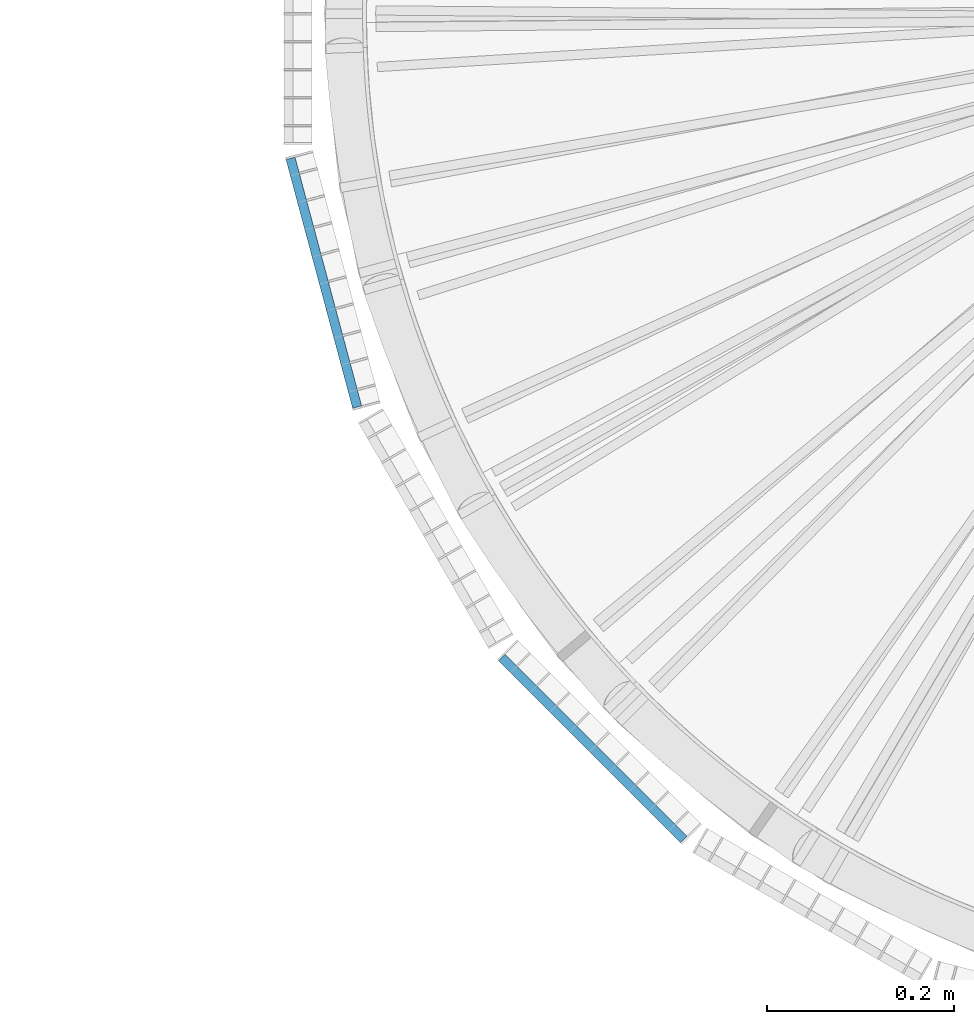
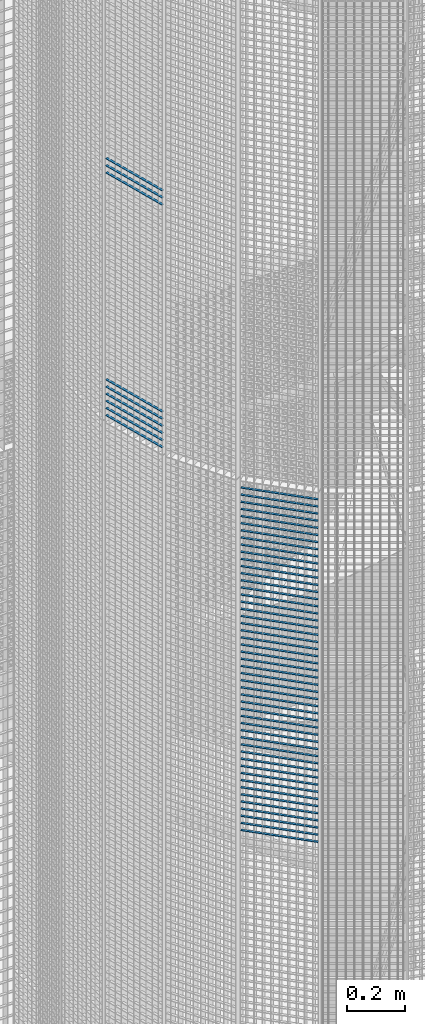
# One storey, part 114 of 1183: 58 beams, 2 elements without a shape of their own.
"""IFC2X3 building model written with IfcOpenShell, lengths in millimetres."""

from ifc_helpers import new_model, si_unit, frame, origin_with_axes, origin_2d_with_axis, place, context, subcontext, project, spatial, rectangle, extrude, material, type_object, element, aggregate, save


model = new_model("IFC2X3")

# Units and contexts
model_context = context("Model", 3, precision=1e-05, world=origin_with_axes())
body_context = subcontext(model_context, "Body", "Model", "MODEL_VIEW")
ifc_project = project(units=[si_unit("LENGTHUNIT", "METRE", prefix="MILLI"), si_unit("AREAUNIT", "SQUARE_METRE"), si_unit("VOLUMEUNIT", "CUBIC_METRE"), si_unit("MASSUNIT", "GRAM", prefix="KILO"), si_unit("TIMEUNIT", "SECOND"), si_unit("PLANEANGLEUNIT", "RADIAN"), si_unit("SOLIDANGLEUNIT", "STERADIAN"), si_unit("THERMODYNAMICTEMPERATUREUNIT", "DEGREE_CELSIUS"), si_unit("LUMINOUSINTENSITYUNIT", "LUMEN")], contexts=[model_context])

# Site, building, storey
site_placement = place(None, origin_with_axes())
site = spatial("IfcSite", under=ifc_project, at=site_placement, Name="Undefined", CompositionType="ELEMENT")
building_placement = place(site_placement, origin_with_axes())
building = spatial("IfcBuilding", under=site, at=building_placement, Name="Undefined", CompositionType="ELEMENT")
storey_placement = place(building_placement, origin_with_axes())
storey = spatial("IfcBuildingStorey", under=building, at=storey_placement, Name="Undefined", CompositionType="ELEMENT", Elevation=0.0)

# Assembly, beams
assembly_1_placement = place(storey_placement, origin_with_axes())
assembly_1 = element("IfcElementAssembly", 1, at=assembly_1_placement, inside=storey, Name="BORDURE", AssemblyPlace="NOTDEFINED", PredefinedType="NOTDEFINED")
ifc_material = material(Name="STEEL/S235JR")
beam_type = type_object("IfcBeamType", Name="PL2*10", PredefinedType="NOTDEFINED")
beam_1_placement = place(assembly_1_placement, frame((-1111.25508286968, -154.895926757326, 12180.0), z_axis=(-0.965925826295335, -0.258819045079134, 0.0), x_axis=(0.258819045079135, -0.965925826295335, 0.0)))
beam_1 = element("IfcBeam", 2, at=beam_1_placement, type_object=beam_type, material=ifc_material, Name="ENTRETOISE", context=body_context, shape_type="SweptSolid", body=[
    extrude(rectangle(XDim=2.0, YDim=10.0, at=origin_2d_with_axis()), frame((275.999999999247, 9.09494701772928e-13, 1.53210777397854e-14), z_axis=(-1.0, 0.0, 0.0), x_axis=(0.0, -1.0, 0.0)), (0.0, 0.0, 1.0), 276.0),
])
beam_2_placement = place(assembly_1_placement, frame((-1111.25508286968, -154.895926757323, 13050.0), z_axis=(-0.965925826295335, -0.258819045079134, 0.0), x_axis=(0.258819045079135, -0.965925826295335, 0.0)))
beam_2 = element("IfcBeam", 3, at=beam_2_placement, type_object=beam_type, material=ifc_material, Name="ENTRETOISE", context=body_context, shape_type="SweptSolid", body=[
    extrude(rectangle(XDim=2.0, YDim=10.0, at=origin_2d_with_axis()), frame((275.999999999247, 9.09494701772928e-13, 1.53210777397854e-14), z_axis=(-1.0, 0.0, 0.0), x_axis=(0.0, -1.0, 0.0)), (0.0, 0.0, 1.0), 276.0),
])
beam_3_placement = place(assembly_1_placement, frame((-1111.25508286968, -154.895926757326, 12150.0), z_axis=(-0.965925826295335, -0.258819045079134, 0.0), x_axis=(0.258819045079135, -0.965925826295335, 0.0)))
beam_3 = element("IfcBeam", 4, at=beam_3_placement, type_object=beam_type, material=ifc_material, Name="ENTRETOISE", context=body_context, shape_type="SweptSolid", body=[
    extrude(rectangle(XDim=2.0, YDim=10.0, at=origin_2d_with_axis()), frame((275.999999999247, 9.09494701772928e-13, 1.53210777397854e-14), z_axis=(-1.0, 0.0, 0.0), x_axis=(0.0, -1.0, 0.0)), (0.0, 0.0, 1.0), 276.0),
])
beam_4_placement = place(assembly_1_placement, frame((-1111.25508286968, -154.895926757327, 12120.0), z_axis=(-0.965925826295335, -0.258819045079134, 0.0), x_axis=(0.258819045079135, -0.965925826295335, 0.0)))
beam_4 = element("IfcBeam", 5, at=beam_4_placement, type_object=beam_type, material=ifc_material, Name="ENTRETOISE", context=body_context, shape_type="SweptSolid", body=[
    extrude(rectangle(XDim=2.0, YDim=10.0, at=origin_2d_with_axis()), frame((275.999999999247, 9.09494701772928e-13, 1.53210777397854e-14), z_axis=(-1.0, 0.0, 0.0), x_axis=(0.0, -1.0, 0.0)), (0.0, 0.0, 1.0), 276.0),
])
beam_5_placement = place(assembly_1_placement, frame((-1111.25508286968, -154.895926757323, 13080.0), z_axis=(-0.965925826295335, -0.258819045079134, 0.0), x_axis=(0.258819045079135, -0.965925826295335, 0.0)))
beam_5 = element("IfcBeam", 6, at=beam_5_placement, type_object=beam_type, material=ifc_material, Name="ENTRETOISE", context=body_context, shape_type="SweptSolid", body=[
    extrude(rectangle(XDim=2.0, YDim=10.0, at=origin_2d_with_axis()), frame((275.999999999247, 9.09494701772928e-13, 1.53210777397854e-14), z_axis=(-1.0, 0.0, 0.0), x_axis=(0.0, -1.0, 0.0)), (0.0, 0.0, 1.0), 276.0),
])
beam_6_placement = place(assembly_1_placement, frame((-1111.25508286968, -154.895926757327, 12090.0), z_axis=(-0.965925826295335, -0.258819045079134, 0.0), x_axis=(0.258819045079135, -0.965925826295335, 0.0)))
beam_6 = element("IfcBeam", 7, at=beam_6_placement, type_object=beam_type, material=ifc_material, Name="ENTRETOISE", context=body_context, shape_type="SweptSolid", body=[
    extrude(rectangle(XDim=2.0, YDim=10.0, at=origin_2d_with_axis()), frame((275.999999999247, 9.09494701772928e-13, 1.53210777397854e-14), z_axis=(-1.0, 0.0, 0.0), x_axis=(0.0, -1.0, 0.0)), (0.0, 0.0, 1.0), 276.0),
])
beam_7_placement = place(assembly_1_placement, frame((-1111.25508286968, -154.895926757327, 12060.0), z_axis=(-0.965925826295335, -0.258819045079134, 0.0), x_axis=(0.258819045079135, -0.965925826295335, 0.0)))
beam_7 = element("IfcBeam", 8, at=beam_7_placement, type_object=beam_type, material=ifc_material, Name="ENTRETOISE", context=body_context, shape_type="SweptSolid", body=[
    extrude(rectangle(XDim=2.0, YDim=10.0, at=origin_2d_with_axis()), frame((275.999999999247, 9.09494701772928e-13, 1.53210777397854e-14), z_axis=(-1.0, 0.0, 0.0), x_axis=(0.0, -1.0, 0.0)), (0.0, 0.0, 1.0), 276.0),
])
beam_8_placement = place(assembly_1_placement, frame((-1111.25508286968, -154.895926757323, 13110.0), z_axis=(-0.965925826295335, -0.258819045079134, 0.0), x_axis=(0.258819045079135, -0.965925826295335, 0.0)))
beam_8 = element("IfcBeam", 9, at=beam_8_placement, type_object=beam_type, material=ifc_material, Name="ENTRETOISE", context=body_context, shape_type="SweptSolid", body=[
    extrude(rectangle(XDim=2.0, YDim=10.0, at=origin_2d_with_axis()), frame((275.999999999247, 9.09494701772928e-13, 1.53210777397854e-14), z_axis=(-1.0, 0.0, 0.0), x_axis=(0.0, -1.0, 0.0)), (0.0, 0.0, 1.0), 276.0),
])
beam_9_placement = place(assembly_1_placement, frame((-1111.25508286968, -154.895926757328, 12030.0), z_axis=(-0.965925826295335, -0.258819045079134, 0.0), x_axis=(0.258819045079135, -0.965925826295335, 0.0)))
beam_9 = element("IfcBeam", 10, at=beam_9_placement, type_object=beam_type, material=ifc_material, Name="ENTRETOISE", context=body_context, shape_type="SweptSolid", body=[
    extrude(rectangle(XDim=2.0, YDim=10.0, at=origin_2d_with_axis()), frame((275.999999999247, 9.09494701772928e-13, 1.53210777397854e-14), z_axis=(-1.0, 0.0, 0.0), x_axis=(0.0, -1.0, 0.0)), (0.0, 0.0, 1.0), 276.0),
])
aggregate(assembly_1, [beam_1, beam_2, beam_3, beam_4, beam_5, beam_6, beam_7, beam_8, beam_9])

assembly_2_placement = place(storey_placement, origin_with_axes())
assembly_2 = element("IfcElementAssembly", 11, at=assembly_2_placement, inside=storey, Name="BORDURE", AssemblyPlace="NOTDEFINED", PredefinedType="NOTDEFINED")
beam_10_placement = place(assembly_2_placement, frame((-884.927168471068, -689.771348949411, 11970.0), z_axis=(-0.70710678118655, -0.707106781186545, 0.0), x_axis=(0.707106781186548, -0.707106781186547, 0.0)))
beam_10 = element("IfcBeam", 12, at=beam_10_placement, type_object=beam_type, material=ifc_material, Name="ENTRETOISE", context=body_context, shape_type="SweptSolid", body=[
    extrude(rectangle(XDim=2.0, YDim=10.0, at=origin_2d_with_axis()), frame((275.999999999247, 9.09494701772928e-13, 1.53210777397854e-14), z_axis=(-1.0, 0.0, 0.0), x_axis=(0.0, -1.0, 0.0)), (0.0, 0.0, 1.0), 276.0),
])
beam_11_placement = place(assembly_2_placement, frame((-884.927168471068, -689.771348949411, 11940.0), z_axis=(-0.70710678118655, -0.707106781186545, 0.0), x_axis=(0.707106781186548, -0.707106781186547, 0.0)))
beam_11 = element("IfcBeam", 13, at=beam_11_placement, type_object=beam_type, material=ifc_material, Name="ENTRETOISE", context=body_context, shape_type="SweptSolid", body=[
    extrude(rectangle(XDim=2.0, YDim=10.0, at=origin_2d_with_axis()), frame((275.999999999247, 9.09494701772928e-13, 1.53210777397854e-14), z_axis=(-1.0, 0.0, 0.0), x_axis=(0.0, -1.0, 0.0)), (0.0, 0.0, 1.0), 276.0),
])
beam_12_placement = place(assembly_2_placement, frame((-884.927168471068, -689.771348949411, 11910.0), z_axis=(-0.70710678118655, -0.707106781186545, 0.0), x_axis=(0.707106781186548, -0.707106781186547, 0.0)))
beam_12 = element("IfcBeam", 14, at=beam_12_placement, type_object=beam_type, material=ifc_material, Name="ENTRETOISE", context=body_context, shape_type="SweptSolid", body=[
    extrude(rectangle(XDim=2.0, YDim=10.0, at=origin_2d_with_axis()), frame((275.999999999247, 9.09494701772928e-13, 1.53210777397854e-14), z_axis=(-1.0, 0.0, 0.0), x_axis=(0.0, -1.0, 0.0)), (0.0, 0.0, 1.0), 276.0),
])
beam_13_placement = place(assembly_2_placement, frame((-884.927168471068, -689.771348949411, 11880.0), z_axis=(-0.70710678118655, -0.707106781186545, 0.0), x_axis=(0.707106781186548, -0.707106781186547, 0.0)))
beam_13 = element("IfcBeam", 15, at=beam_13_placement, type_object=beam_type, material=ifc_material, Name="ENTRETOISE", context=body_context, shape_type="SweptSolid", body=[
    extrude(rectangle(XDim=2.0, YDim=10.0, at=origin_2d_with_axis()), frame((275.999999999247, 9.09494701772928e-13, 1.53210777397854e-14), z_axis=(-1.0, 0.0, 0.0), x_axis=(0.0, -1.0, 0.0)), (0.0, 0.0, 1.0), 276.0),
])
beam_14_placement = place(assembly_2_placement, frame((-884.927168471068, -689.771348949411, 11850.0), z_axis=(-0.70710678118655, -0.707106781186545, 0.0), x_axis=(0.707106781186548, -0.707106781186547, 0.0)))
beam_14 = element("IfcBeam", 16, at=beam_14_placement, type_object=beam_type, material=ifc_material, Name="ENTRETOISE", context=body_context, shape_type="SweptSolid", body=[
    extrude(rectangle(XDim=2.0, YDim=10.0, at=origin_2d_with_axis()), frame((275.999999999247, 9.09494701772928e-13, 1.53210777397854e-14), z_axis=(-1.0, 0.0, 0.0), x_axis=(0.0, -1.0, 0.0)), (0.0, 0.0, 1.0), 276.0),
])
beam_15_placement = place(assembly_2_placement, frame((-884.927168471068, -689.771348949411, 11820.0), z_axis=(-0.70710678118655, -0.707106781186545, 0.0), x_axis=(0.707106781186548, -0.707106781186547, 0.0)))
beam_15 = element("IfcBeam", 17, at=beam_15_placement, type_object=beam_type, material=ifc_material, Name="ENTRETOISE", context=body_context, shape_type="SweptSolid", body=[
    extrude(rectangle(XDim=2.0, YDim=10.0, at=origin_2d_with_axis()), frame((275.999999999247, 9.09494701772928e-13, 1.53210777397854e-14), z_axis=(-1.0, 0.0, 0.0), x_axis=(0.0, -1.0, 0.0)), (0.0, 0.0, 1.0), 276.0),
])
beam_16_placement = place(assembly_2_placement, frame((-884.927168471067, -689.771348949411, 11790.0), z_axis=(-0.70710678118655, -0.707106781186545, 0.0), x_axis=(0.707106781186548, -0.707106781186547, 0.0)))
beam_16 = element("IfcBeam", 18, at=beam_16_placement, type_object=beam_type, material=ifc_material, Name="ENTRETOISE", context=body_context, shape_type="SweptSolid", body=[
    extrude(rectangle(XDim=2.0, YDim=10.0, at=origin_2d_with_axis()), frame((275.999999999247, 9.09494701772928e-13, 1.53210777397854e-14), z_axis=(-1.0, 0.0, 0.0), x_axis=(0.0, -1.0, 0.0)), (0.0, 0.0, 1.0), 276.0),
])
beam_17_placement = place(assembly_2_placement, frame((-884.927168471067, -689.771348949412, 11760.0), z_axis=(-0.70710678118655, -0.707106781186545, 0.0), x_axis=(0.707106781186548, -0.707106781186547, 0.0)))
beam_17 = element("IfcBeam", 19, at=beam_17_placement, type_object=beam_type, material=ifc_material, Name="ENTRETOISE", context=body_context, shape_type="SweptSolid", body=[
    extrude(rectangle(XDim=2.0, YDim=10.0, at=origin_2d_with_axis()), frame((275.999999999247, 9.09494701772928e-13, 1.53210777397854e-14), z_axis=(-1.0, 0.0, 0.0), x_axis=(0.0, -1.0, 0.0)), (0.0, 0.0, 1.0), 276.0),
])
beam_18_placement = place(assembly_2_placement, frame((-884.927168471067, -689.771348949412, 11730.0), z_axis=(-0.70710678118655, -0.707106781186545, 0.0), x_axis=(0.707106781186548, -0.707106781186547, 0.0)))
beam_18 = element("IfcBeam", 20, at=beam_18_placement, type_object=beam_type, material=ifc_material, Name="ENTRETOISE", context=body_context, shape_type="SweptSolid", body=[
    extrude(rectangle(XDim=2.0, YDim=10.0, at=origin_2d_with_axis()), frame((275.999999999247, 9.09494701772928e-13, 1.53210777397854e-14), z_axis=(-1.0, 0.0, 0.0), x_axis=(0.0, -1.0, 0.0)), (0.0, 0.0, 1.0), 276.0),
])
beam_19_placement = place(assembly_2_placement, frame((-884.927168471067, -689.771348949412, 11700.0), z_axis=(-0.70710678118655, -0.707106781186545, 0.0), x_axis=(0.707106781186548, -0.707106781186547, 0.0)))
beam_19 = element("IfcBeam", 21, at=beam_19_placement, type_object=beam_type, material=ifc_material, Name="ENTRETOISE", context=body_context, shape_type="SweptSolid", body=[
    extrude(rectangle(XDim=2.0, YDim=10.0, at=origin_2d_with_axis()), frame((275.999999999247, 9.09494701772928e-13, 1.53210777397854e-14), z_axis=(-1.0, 0.0, 0.0), x_axis=(0.0, -1.0, 0.0)), (0.0, 0.0, 1.0), 276.0),
])
beam_20_placement = place(assembly_2_placement, frame((-884.927168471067, -689.771348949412, 11670.0), z_axis=(-0.70710678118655, -0.707106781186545, 0.0), x_axis=(0.707106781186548, -0.707106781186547, 0.0)))
beam_20 = element("IfcBeam", 22, at=beam_20_placement, type_object=beam_type, material=ifc_material, Name="ENTRETOISE", context=body_context, shape_type="SweptSolid", body=[
    extrude(rectangle(XDim=2.0, YDim=10.0, at=origin_2d_with_axis()), frame((275.999999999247, 9.09494701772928e-13, 1.53210777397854e-14), z_axis=(-1.0, 0.0, 0.0), x_axis=(0.0, -1.0, 0.0)), (0.0, 0.0, 1.0), 276.0),
])
beam_21_placement = place(assembly_2_placement, frame((-884.927168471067, -689.771348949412, 11640.0), z_axis=(-0.70710678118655, -0.707106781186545, 0.0), x_axis=(0.707106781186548, -0.707106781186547, 0.0)))
beam_21 = element("IfcBeam", 23, at=beam_21_placement, type_object=beam_type, material=ifc_material, Name="ENTRETOISE", context=body_context, shape_type="SweptSolid", body=[
    extrude(rectangle(XDim=2.0, YDim=10.0, at=origin_2d_with_axis()), frame((275.999999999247, 9.09494701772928e-13, 1.53210777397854e-14), z_axis=(-1.0, 0.0, 0.0), x_axis=(0.0, -1.0, 0.0)), (0.0, 0.0, 1.0), 276.0),
])
beam_22_placement = place(assembly_2_placement, frame((-884.927168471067, -689.771348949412, 11610.0), z_axis=(-0.70710678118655, -0.707106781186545, 0.0), x_axis=(0.707106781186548, -0.707106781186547, 0.0)))
beam_22 = element("IfcBeam", 24, at=beam_22_placement, type_object=beam_type, material=ifc_material, Name="ENTRETOISE", context=body_context, shape_type="SweptSolid", body=[
    extrude(rectangle(XDim=2.0, YDim=10.0, at=origin_2d_with_axis()), frame((275.999999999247, 9.09494701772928e-13, 1.53210777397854e-14), z_axis=(-1.0, 0.0, 0.0), x_axis=(0.0, -1.0, 0.0)), (0.0, 0.0, 1.0), 276.0),
])
beam_23_placement = place(assembly_2_placement, frame((-884.927168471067, -689.771348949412, 11580.0), z_axis=(-0.70710678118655, -0.707106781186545, 0.0), x_axis=(0.707106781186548, -0.707106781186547, 0.0)))
beam_23 = element("IfcBeam", 25, at=beam_23_placement, type_object=beam_type, material=ifc_material, Name="ENTRETOISE", context=body_context, shape_type="SweptSolid", body=[
    extrude(rectangle(XDim=2.0, YDim=10.0, at=origin_2d_with_axis()), frame((275.999999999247, 9.09494701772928e-13, 1.53210777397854e-14), z_axis=(-1.0, 0.0, 0.0), x_axis=(0.0, -1.0, 0.0)), (0.0, 0.0, 1.0), 276.0),
])
beam_24_placement = place(assembly_2_placement, frame((-884.927168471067, -689.771348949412, 11550.0), z_axis=(-0.70710678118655, -0.707106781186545, 0.0), x_axis=(0.707106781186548, -0.707106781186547, 0.0)))
beam_24 = element("IfcBeam", 26, at=beam_24_placement, type_object=beam_type, material=ifc_material, Name="ENTRETOISE", context=body_context, shape_type="SweptSolid", body=[
    extrude(rectangle(XDim=2.0, YDim=10.0, at=origin_2d_with_axis()), frame((275.999999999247, 9.09494701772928e-13, 1.53210777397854e-14), z_axis=(-1.0, 0.0, 0.0), x_axis=(0.0, -1.0, 0.0)), (0.0, 0.0, 1.0), 276.0),
])
beam_25_placement = place(assembly_2_placement, frame((-884.927168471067, -689.771348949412, 11520.0), z_axis=(-0.70710678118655, -0.707106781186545, 0.0), x_axis=(0.707106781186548, -0.707106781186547, 0.0)))
beam_25 = element("IfcBeam", 27, at=beam_25_placement, type_object=beam_type, material=ifc_material, Name="ENTRETOISE", context=body_context, shape_type="SweptSolid", body=[
    extrude(rectangle(XDim=2.0, YDim=10.0, at=origin_2d_with_axis()), frame((275.999999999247, 9.09494701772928e-13, 1.53210777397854e-14), z_axis=(-1.0, 0.0, 0.0), x_axis=(0.0, -1.0, 0.0)), (0.0, 0.0, 1.0), 276.0),
])
beam_26_placement = place(assembly_2_placement, frame((-884.927168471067, -689.771348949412, 11490.0), z_axis=(-0.70710678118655, -0.707106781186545, 0.0), x_axis=(0.707106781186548, -0.707106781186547, 0.0)))
beam_26 = element("IfcBeam", 28, at=beam_26_placement, type_object=beam_type, material=ifc_material, Name="ENTRETOISE", context=body_context, shape_type="SweptSolid", body=[
    extrude(rectangle(XDim=2.0, YDim=10.0, at=origin_2d_with_axis()), frame((275.999999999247, 9.09494701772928e-13, 1.53210777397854e-14), z_axis=(-1.0, 0.0, 0.0), x_axis=(0.0, -1.0, 0.0)), (0.0, 0.0, 1.0), 276.0),
])
beam_27_placement = place(assembly_2_placement, frame((-884.927168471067, -689.771348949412, 11460.0), z_axis=(-0.70710678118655, -0.707106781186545, 0.0), x_axis=(0.707106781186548, -0.707106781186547, 0.0)))
beam_27 = element("IfcBeam", 29, at=beam_27_placement, type_object=beam_type, material=ifc_material, Name="ENTRETOISE", context=body_context, shape_type="SweptSolid", body=[
    extrude(rectangle(XDim=2.0, YDim=10.0, at=origin_2d_with_axis()), frame((275.999999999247, 9.09494701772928e-13, 1.53210777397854e-14), z_axis=(-1.0, 0.0, 0.0), x_axis=(0.0, -1.0, 0.0)), (0.0, 0.0, 1.0), 276.0),
])
beam_28_placement = place(assembly_2_placement, frame((-884.927168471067, -689.771348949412, 11430.0), z_axis=(-0.70710678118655, -0.707106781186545, 0.0), x_axis=(0.707106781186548, -0.707106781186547, 0.0)))
beam_28 = element("IfcBeam", 30, at=beam_28_placement, type_object=beam_type, material=ifc_material, Name="ENTRETOISE", context=body_context, shape_type="SweptSolid", body=[
    extrude(rectangle(XDim=2.0, YDim=10.0, at=origin_2d_with_axis()), frame((275.999999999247, 9.09494701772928e-13, 1.53210777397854e-14), z_axis=(-1.0, 0.0, 0.0), x_axis=(0.0, -1.0, 0.0)), (0.0, 0.0, 1.0), 276.0),
])
beam_29_placement = place(assembly_2_placement, frame((-884.927168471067, -689.771348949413, 11400.0), z_axis=(-0.70710678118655, -0.707106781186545, 0.0), x_axis=(0.707106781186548, -0.707106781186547, 0.0)))
beam_29 = element("IfcBeam", 31, at=beam_29_placement, type_object=beam_type, material=ifc_material, Name="ENTRETOISE", context=body_context, shape_type="SweptSolid", body=[
    extrude(rectangle(XDim=2.0, YDim=10.0, at=origin_2d_with_axis()), frame((275.999999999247, 9.09494701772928e-13, 1.53210777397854e-14), z_axis=(-1.0, 0.0, 0.0), x_axis=(0.0, -1.0, 0.0)), (0.0, 0.0, 1.0), 276.0),
])
beam_30_placement = place(assembly_2_placement, frame((-884.927168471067, -689.771348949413, 11370.0), z_axis=(-0.70710678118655, -0.707106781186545, 0.0), x_axis=(0.707106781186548, -0.707106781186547, 0.0)))
beam_30 = element("IfcBeam", 32, at=beam_30_placement, type_object=beam_type, material=ifc_material, Name="ENTRETOISE", context=body_context, shape_type="SweptSolid", body=[
    extrude(rectangle(XDim=2.0, YDim=10.0, at=origin_2d_with_axis()), frame((275.999999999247, 9.09494701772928e-13, 1.53210777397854e-14), z_axis=(-1.0, 0.0, 0.0), x_axis=(0.0, -1.0, 0.0)), (0.0, 0.0, 1.0), 276.0),
])
beam_31_placement = place(assembly_2_placement, frame((-884.927168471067, -689.771348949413, 11340.0), z_axis=(-0.70710678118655, -0.707106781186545, 0.0), x_axis=(0.707106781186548, -0.707106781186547, 0.0)))
beam_31 = element("IfcBeam", 33, at=beam_31_placement, type_object=beam_type, material=ifc_material, Name="ENTRETOISE", context=body_context, shape_type="SweptSolid", body=[
    extrude(rectangle(XDim=2.0, YDim=10.0, at=origin_2d_with_axis()), frame((275.999999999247, 9.09494701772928e-13, 1.53210777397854e-14), z_axis=(-1.0, 0.0, 0.0), x_axis=(0.0, -1.0, 0.0)), (0.0, 0.0, 1.0), 276.0),
])
beam_32_placement = place(assembly_2_placement, frame((-884.927168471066, -689.771348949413, 11310.0), z_axis=(-0.70710678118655, -0.707106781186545, 0.0), x_axis=(0.707106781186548, -0.707106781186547, 0.0)))
beam_32 = element("IfcBeam", 34, at=beam_32_placement, type_object=beam_type, material=ifc_material, Name="ENTRETOISE", context=body_context, shape_type="SweptSolid", body=[
    extrude(rectangle(XDim=2.0, YDim=10.0, at=origin_2d_with_axis()), frame((275.999999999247, 9.09494701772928e-13, 1.53210777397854e-14), z_axis=(-1.0, 0.0, 0.0), x_axis=(0.0, -1.0, 0.0)), (0.0, 0.0, 1.0), 276.0),
])
beam_33_placement = place(assembly_2_placement, frame((-884.927168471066, -689.771348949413, 11280.0), z_axis=(-0.70710678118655, -0.707106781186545, 0.0), x_axis=(0.707106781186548, -0.707106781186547, 0.0)))
beam_33 = element("IfcBeam", 35, at=beam_33_placement, type_object=beam_type, material=ifc_material, Name="ENTRETOISE", context=body_context, shape_type="SweptSolid", body=[
    extrude(rectangle(XDim=2.0, YDim=10.0, at=origin_2d_with_axis()), frame((275.999999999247, 9.09494701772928e-13, 1.53210777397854e-14), z_axis=(-1.0, 0.0, 0.0), x_axis=(0.0, -1.0, 0.0)), (0.0, 0.0, 1.0), 276.0),
])
beam_34_placement = place(assembly_2_placement, frame((-884.927168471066, -689.771348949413, 11250.0), z_axis=(-0.70710678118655, -0.707106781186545, 0.0), x_axis=(0.707106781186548, -0.707106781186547, 0.0)))
beam_34 = element("IfcBeam", 36, at=beam_34_placement, type_object=beam_type, material=ifc_material, Name="ENTRETOISE", context=body_context, shape_type="SweptSolid", body=[
    extrude(rectangle(XDim=2.0, YDim=10.0, at=origin_2d_with_axis()), frame((275.999999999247, 9.09494701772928e-13, 1.53210777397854e-14), z_axis=(-1.0, 0.0, 0.0), x_axis=(0.0, -1.0, 0.0)), (0.0, 0.0, 1.0), 276.0),
])
beam_35_placement = place(assembly_2_placement, frame((-884.927168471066, -689.771348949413, 11220.0), z_axis=(-0.70710678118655, -0.707106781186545, 0.0), x_axis=(0.707106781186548, -0.707106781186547, 0.0)))
beam_35 = element("IfcBeam", 37, at=beam_35_placement, type_object=beam_type, material=ifc_material, Name="ENTRETOISE", context=body_context, shape_type="SweptSolid", body=[
    extrude(rectangle(XDim=2.0, YDim=10.0, at=origin_2d_with_axis()), frame((275.999999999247, 9.09494701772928e-13, 1.53210777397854e-14), z_axis=(-1.0, 0.0, 0.0), x_axis=(0.0, -1.0, 0.0)), (0.0, 0.0, 1.0), 276.0),
])
beam_36_placement = place(assembly_2_placement, frame((-884.927168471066, -689.771348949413, 11190.0), z_axis=(-0.70710678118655, -0.707106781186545, 0.0), x_axis=(0.707106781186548, -0.707106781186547, 0.0)))
beam_36 = element("IfcBeam", 38, at=beam_36_placement, type_object=beam_type, material=ifc_material, Name="ENTRETOISE", context=body_context, shape_type="SweptSolid", body=[
    extrude(rectangle(XDim=2.0, YDim=10.0, at=origin_2d_with_axis()), frame((275.999999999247, 9.09494701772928e-13, 1.53210777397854e-14), z_axis=(-1.0, 0.0, 0.0), x_axis=(0.0, -1.0, 0.0)), (0.0, 0.0, 1.0), 276.0),
])
beam_37_placement = place(assembly_2_placement, frame((-884.927168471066, -689.771348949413, 11160.0), z_axis=(-0.70710678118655, -0.707106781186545, 0.0), x_axis=(0.707106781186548, -0.707106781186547, 0.0)))
beam_37 = element("IfcBeam", 39, at=beam_37_placement, type_object=beam_type, material=ifc_material, Name="ENTRETOISE", context=body_context, shape_type="SweptSolid", body=[
    extrude(rectangle(XDim=2.0, YDim=10.0, at=origin_2d_with_axis()), frame((275.999999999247, 9.09494701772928e-13, 1.53210777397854e-14), z_axis=(-1.0, 0.0, 0.0), x_axis=(0.0, -1.0, 0.0)), (0.0, 0.0, 1.0), 276.0),
])
beam_38_placement = place(assembly_2_placement, frame((-884.927168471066, -689.771348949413, 11130.0), z_axis=(-0.70710678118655, -0.707106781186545, 0.0), x_axis=(0.707106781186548, -0.707106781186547, 0.0)))
beam_38 = element("IfcBeam", 40, at=beam_38_placement, type_object=beam_type, material=ifc_material, Name="ENTRETOISE", context=body_context, shape_type="SweptSolid", body=[
    extrude(rectangle(XDim=2.0, YDim=10.0, at=origin_2d_with_axis()), frame((275.999999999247, 9.09494701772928e-13, 1.53210777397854e-14), z_axis=(-1.0, 0.0, 0.0), x_axis=(0.0, -1.0, 0.0)), (0.0, 0.0, 1.0), 276.0),
])
beam_39_placement = place(assembly_2_placement, frame((-884.927168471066, -689.771348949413, 11100.0), z_axis=(-0.70710678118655, -0.707106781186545, 0.0), x_axis=(0.707106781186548, -0.707106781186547, 0.0)))
beam_39 = element("IfcBeam", 41, at=beam_39_placement, type_object=beam_type, material=ifc_material, Name="ENTRETOISE", context=body_context, shape_type="SweptSolid", body=[
    extrude(rectangle(XDim=2.0, YDim=10.0, at=origin_2d_with_axis()), frame((275.999999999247, 9.09494701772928e-13, 1.53210777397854e-14), z_axis=(-1.0, 0.0, 0.0), x_axis=(0.0, -1.0, 0.0)), (0.0, 0.0, 1.0), 276.0),
])
beam_40_placement = place(assembly_2_placement, frame((-884.927168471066, -689.771348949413, 11070.0), z_axis=(-0.70710678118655, -0.707106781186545, 0.0), x_axis=(0.707106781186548, -0.707106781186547, 0.0)))
beam_40 = element("IfcBeam", 42, at=beam_40_placement, type_object=beam_type, material=ifc_material, Name="ENTRETOISE", context=body_context, shape_type="SweptSolid", body=[
    extrude(rectangle(XDim=2.0, YDim=10.0, at=origin_2d_with_axis()), frame((275.999999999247, 9.09494701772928e-13, 1.53210777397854e-14), z_axis=(-1.0, 0.0, 0.0), x_axis=(0.0, -1.0, 0.0)), (0.0, 0.0, 1.0), 276.0),
])
beam_41_placement = place(assembly_2_placement, frame((-884.927168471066, -689.771348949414, 11040.0), z_axis=(-0.70710678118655, -0.707106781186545, 0.0), x_axis=(0.707106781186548, -0.707106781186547, 0.0)))
beam_41 = element("IfcBeam", 43, at=beam_41_placement, type_object=beam_type, material=ifc_material, Name="ENTRETOISE", context=body_context, shape_type="SweptSolid", body=[
    extrude(rectangle(XDim=2.0, YDim=10.0, at=origin_2d_with_axis()), frame((275.999999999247, 9.09494701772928e-13, 1.53210777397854e-14), z_axis=(-1.0, 0.0, 0.0), x_axis=(0.0, -1.0, 0.0)), (0.0, 0.0, 1.0), 276.0),
])
beam_42_placement = place(assembly_2_placement, frame((-884.927168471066, -689.771348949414, 11010.0), z_axis=(-0.70710678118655, -0.707106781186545, 0.0), x_axis=(0.707106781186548, -0.707106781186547, 0.0)))
beam_42 = element("IfcBeam", 44, at=beam_42_placement, type_object=beam_type, material=ifc_material, Name="ENTRETOISE", context=body_context, shape_type="SweptSolid", body=[
    extrude(rectangle(XDim=2.0, YDim=10.0, at=origin_2d_with_axis()), frame((275.999999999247, 9.09494701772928e-13, 1.53210777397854e-14), z_axis=(-1.0, 0.0, 0.0), x_axis=(0.0, -1.0, 0.0)), (0.0, 0.0, 1.0), 276.0),
])
beam_43_placement = place(assembly_2_placement, frame((-884.927168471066, -689.771348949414, 10980.0), z_axis=(-0.70710678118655, -0.707106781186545, 0.0), x_axis=(0.707106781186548, -0.707106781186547, 0.0)))
beam_43 = element("IfcBeam", 45, at=beam_43_placement, type_object=beam_type, material=ifc_material, Name="ENTRETOISE", context=body_context, shape_type="SweptSolid", body=[
    extrude(rectangle(XDim=2.0, YDim=10.0, at=origin_2d_with_axis()), frame((275.999999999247, 9.09494701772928e-13, 1.53210777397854e-14), z_axis=(-1.0, 0.0, 0.0), x_axis=(0.0, -1.0, 0.0)), (0.0, 0.0, 1.0), 276.0),
])
beam_44_placement = place(assembly_2_placement, frame((-884.927168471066, -689.771348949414, 10950.0), z_axis=(-0.70710678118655, -0.707106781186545, 0.0), x_axis=(0.707106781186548, -0.707106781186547, 0.0)))
beam_44 = element("IfcBeam", 46, at=beam_44_placement, type_object=beam_type, material=ifc_material, Name="ENTRETOISE", context=body_context, shape_type="SweptSolid", body=[
    extrude(rectangle(XDim=2.0, YDim=10.0, at=origin_2d_with_axis()), frame((275.999999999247, 9.09494701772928e-13, 1.53210777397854e-14), z_axis=(-1.0, 0.0, 0.0), x_axis=(0.0, -1.0, 0.0)), (0.0, 0.0, 1.0), 276.0),
])
beam_45_placement = place(assembly_2_placement, frame((-884.927168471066, -689.771348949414, 10920.0), z_axis=(-0.70710678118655, -0.707106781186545, 0.0), x_axis=(0.707106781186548, -0.707106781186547, 0.0)))
beam_45 = element("IfcBeam", 47, at=beam_45_placement, type_object=beam_type, material=ifc_material, Name="ENTRETOISE", context=body_context, shape_type="SweptSolid", body=[
    extrude(rectangle(XDim=2.0, YDim=10.0, at=origin_2d_with_axis()), frame((275.999999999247, 9.09494701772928e-13, 1.53210777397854e-14), z_axis=(-1.0, 0.0, 0.0), x_axis=(0.0, -1.0, 0.0)), (0.0, 0.0, 1.0), 276.0),
])
beam_46_placement = place(assembly_2_placement, frame((-884.927168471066, -689.771348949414, 10890.0), z_axis=(-0.70710678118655, -0.707106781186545, 0.0), x_axis=(0.707106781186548, -0.707106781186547, 0.0)))
beam_46 = element("IfcBeam", 48, at=beam_46_placement, type_object=beam_type, material=ifc_material, Name="ENTRETOISE", context=body_context, shape_type="SweptSolid", body=[
    extrude(rectangle(XDim=2.0, YDim=10.0, at=origin_2d_with_axis()), frame((275.999999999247, 9.09494701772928e-13, 1.53210777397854e-14), z_axis=(-1.0, 0.0, 0.0), x_axis=(0.0, -1.0, 0.0)), (0.0, 0.0, 1.0), 276.0),
])
beam_47_placement = place(assembly_2_placement, frame((-884.927168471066, -689.771348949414, 10860.0), z_axis=(-0.70710678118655, -0.707106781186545, 0.0), x_axis=(0.707106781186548, -0.707106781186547, 0.0)))
beam_47 = element("IfcBeam", 49, at=beam_47_placement, type_object=beam_type, material=ifc_material, Name="ENTRETOISE", context=body_context, shape_type="SweptSolid", body=[
    extrude(rectangle(XDim=2.0, YDim=10.0, at=origin_2d_with_axis()), frame((275.999999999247, 9.09494701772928e-13, 1.53210777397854e-14), z_axis=(-1.0, 0.0, 0.0), x_axis=(0.0, -1.0, 0.0)), (0.0, 0.0, 1.0), 276.0),
])
beam_48_placement = place(assembly_2_placement, frame((-884.927168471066, -689.771348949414, 10830.0), z_axis=(-0.70710678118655, -0.707106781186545, 0.0), x_axis=(0.707106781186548, -0.707106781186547, 0.0)))
beam_48 = element("IfcBeam", 50, at=beam_48_placement, type_object=beam_type, material=ifc_material, Name="ENTRETOISE", context=body_context, shape_type="SweptSolid", body=[
    extrude(rectangle(XDim=2.0, YDim=10.0, at=origin_2d_with_axis()), frame((275.999999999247, 9.09494701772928e-13, 1.53210777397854e-14), z_axis=(-1.0, 0.0, 0.0), x_axis=(0.0, -1.0, 0.0)), (0.0, 0.0, 1.0), 276.0),
])
beam_49_placement = place(assembly_2_placement, frame((-884.927168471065, -689.771348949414, 10800.0), z_axis=(-0.70710678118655, -0.707106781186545, 0.0), x_axis=(0.707106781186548, -0.707106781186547, 0.0)))
beam_49 = element("IfcBeam", 51, at=beam_49_placement, type_object=beam_type, material=ifc_material, Name="ENTRETOISE", context=body_context, shape_type="SweptSolid", body=[
    extrude(rectangle(XDim=2.0, YDim=10.0, at=origin_2d_with_axis()), frame((275.999999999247, 9.09494701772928e-13, 1.53210777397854e-14), z_axis=(-1.0, 0.0, 0.0), x_axis=(0.0, -1.0, 0.0)), (0.0, 0.0, 1.0), 276.0),
])
beam_50_placement = place(assembly_2_placement, frame((-884.927168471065, -689.771348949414, 10770.0), z_axis=(-0.70710678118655, -0.707106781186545, 0.0), x_axis=(0.707106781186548, -0.707106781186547, 0.0)))
beam_50 = element("IfcBeam", 52, at=beam_50_placement, type_object=beam_type, material=ifc_material, Name="ENTRETOISE", context=body_context, shape_type="SweptSolid", body=[
    extrude(rectangle(XDim=2.0, YDim=10.0, at=origin_2d_with_axis()), frame((275.999999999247, 9.09494701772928e-13, 1.53210777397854e-14), z_axis=(-1.0, 0.0, 0.0), x_axis=(0.0, -1.0, 0.0)), (0.0, 0.0, 1.0), 276.0),
])
beam_51_placement = place(assembly_2_placement, frame((-884.927168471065, -689.771348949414, 10740.0), z_axis=(-0.70710678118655, -0.707106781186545, 0.0), x_axis=(0.707106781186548, -0.707106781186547, 0.0)))
beam_51 = element("IfcBeam", 53, at=beam_51_placement, type_object=beam_type, material=ifc_material, Name="ENTRETOISE", context=body_context, shape_type="SweptSolid", body=[
    extrude(rectangle(XDim=2.0, YDim=10.0, at=origin_2d_with_axis()), frame((275.999999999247, 9.09494701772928e-13, 1.53210777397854e-14), z_axis=(-1.0, 0.0, 0.0), x_axis=(0.0, -1.0, 0.0)), (0.0, 0.0, 1.0), 276.0),
])
beam_52_placement = place(assembly_2_placement, frame((-884.927168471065, -689.771348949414, 10710.0), z_axis=(-0.70710678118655, -0.707106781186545, 0.0), x_axis=(0.707106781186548, -0.707106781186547, 0.0)))
beam_52 = element("IfcBeam", 54, at=beam_52_placement, type_object=beam_type, material=ifc_material, Name="ENTRETOISE", context=body_context, shape_type="SweptSolid", body=[
    extrude(rectangle(XDim=2.0, YDim=10.0, at=origin_2d_with_axis()), frame((275.999999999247, 9.09494701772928e-13, 1.53210777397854e-14), z_axis=(-1.0, 0.0, 0.0), x_axis=(0.0, -1.0, 0.0)), (0.0, 0.0, 1.0), 276.0),
])
beam_53_placement = place(assembly_2_placement, frame((-884.927168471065, -689.771348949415, 10680.0), z_axis=(-0.70710678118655, -0.707106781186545, 0.0), x_axis=(0.707106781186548, -0.707106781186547, 0.0)))
beam_53 = element("IfcBeam", 55, at=beam_53_placement, type_object=beam_type, material=ifc_material, Name="ENTRETOISE", context=body_context, shape_type="SweptSolid", body=[
    extrude(rectangle(XDim=2.0, YDim=10.0, at=origin_2d_with_axis()), frame((275.999999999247, 9.09494701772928e-13, 1.53210777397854e-14), z_axis=(-1.0, 0.0, 0.0), x_axis=(0.0, -1.0, 0.0)), (0.0, 0.0, 1.0), 276.0),
])
beam_54_placement = place(assembly_2_placement, frame((-884.927168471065, -689.771348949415, 10650.0), z_axis=(-0.70710678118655, -0.707106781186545, 0.0), x_axis=(0.707106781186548, -0.707106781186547, 0.0)))
beam_54 = element("IfcBeam", 56, at=beam_54_placement, type_object=beam_type, material=ifc_material, Name="ENTRETOISE", context=body_context, shape_type="SweptSolid", body=[
    extrude(rectangle(XDim=2.0, YDim=10.0, at=origin_2d_with_axis()), frame((275.999999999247, 9.09494701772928e-13, 1.53210777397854e-14), z_axis=(-1.0, 0.0, 0.0), x_axis=(0.0, -1.0, 0.0)), (0.0, 0.0, 1.0), 276.0),
])
beam_55_placement = place(assembly_2_placement, frame((-884.927168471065, -689.771348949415, 10620.0), z_axis=(-0.70710678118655, -0.707106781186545, 0.0), x_axis=(0.707106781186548, -0.707106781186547, 0.0)))
beam_55 = element("IfcBeam", 57, at=beam_55_placement, type_object=beam_type, material=ifc_material, Name="ENTRETOISE", context=body_context, shape_type="SweptSolid", body=[
    extrude(rectangle(XDim=2.0, YDim=10.0, at=origin_2d_with_axis()), frame((275.999999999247, 9.09494701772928e-13, 1.53210777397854e-14), z_axis=(-1.0, 0.0, 0.0), x_axis=(0.0, -1.0, 0.0)), (0.0, 0.0, 1.0), 276.0),
])
beam_56_placement = place(assembly_2_placement, frame((-884.927168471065, -689.771348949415, 10590.0), z_axis=(-0.70710678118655, -0.707106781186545, 0.0), x_axis=(0.707106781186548, -0.707106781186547, 0.0)))
beam_56 = element("IfcBeam", 58, at=beam_56_placement, type_object=beam_type, material=ifc_material, Name="ENTRETOISE", context=body_context, shape_type="SweptSolid", body=[
    extrude(rectangle(XDim=2.0, YDim=10.0, at=origin_2d_with_axis()), frame((275.999999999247, 9.09494701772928e-13, 1.53210777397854e-14), z_axis=(-1.0, 0.0, 0.0), x_axis=(0.0, -1.0, 0.0)), (0.0, 0.0, 1.0), 276.0),
])
beam_57_placement = place(assembly_2_placement, frame((-884.927168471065, -689.771348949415, 10560.0), z_axis=(-0.70710678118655, -0.707106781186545, 0.0), x_axis=(0.707106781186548, -0.707106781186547, 0.0)))
beam_57 = element("IfcBeam", 59, at=beam_57_placement, type_object=beam_type, material=ifc_material, Name="ENTRETOISE", context=body_context, shape_type="SweptSolid", body=[
    extrude(rectangle(XDim=2.0, YDim=10.0, at=origin_2d_with_axis()), frame((275.999999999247, 9.09494701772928e-13, 1.53210777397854e-14), z_axis=(-1.0, 0.0, 0.0), x_axis=(0.0, -1.0, 0.0)), (0.0, 0.0, 1.0), 276.0),
])
beam_58_placement = place(assembly_2_placement, frame((-884.927168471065, -689.771348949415, 10530.0), z_axis=(-0.70710678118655, -0.707106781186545, 0.0), x_axis=(0.707106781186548, -0.707106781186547, 0.0)))
beam_58 = element("IfcBeam", 60, at=beam_58_placement, type_object=beam_type, material=ifc_material, Name="ENTRETOISE", context=body_context, shape_type="SweptSolid", body=[
    extrude(rectangle(XDim=2.0, YDim=10.0, at=origin_2d_with_axis()), frame((275.999999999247, 9.09494701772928e-13, 1.53210777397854e-14), z_axis=(-1.0, 0.0, 0.0), x_axis=(0.0, -1.0, 0.0)), (0.0, 0.0, 1.0), 276.0),
])
aggregate(assembly_2, [beam_10, beam_11, beam_12, beam_13, beam_14, beam_15, beam_16, beam_17, beam_18, beam_19, beam_20, beam_21, beam_22, beam_23, beam_24, beam_25, beam_26, beam_27, beam_28, beam_29, beam_30, beam_31, beam_32, beam_33, beam_34, beam_35, beam_36, beam_37, beam_38, beam_39, beam_40, beam_41, beam_42, beam_43, beam_44, beam_45, beam_46, beam_47, beam_48, beam_49, beam_50, beam_51, beam_52, beam_53, beam_54, beam_55, beam_56, beam_57, beam_58])

save(model, "model.ifc")
